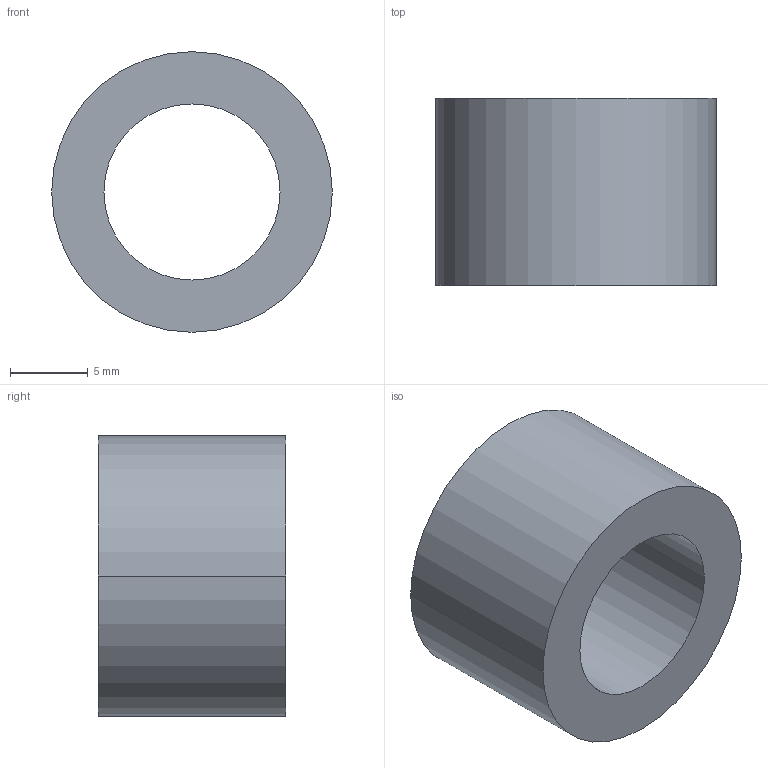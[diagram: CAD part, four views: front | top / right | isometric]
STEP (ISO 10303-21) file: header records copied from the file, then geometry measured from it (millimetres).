
FILE_DESCRIPTION (( 'STEP AP203' ), '1' );
FILE_NAME ('30800.WPP18E11.3.step', '2019-01-23T22:37:07', ( '' ), ( '' ), 'SwSTEP 2.0', 'SolidWorks 2017', '' );
FILE_SCHEMA (( 'CONFIG_CONTROL_DESIGN' ));
Length unit declared in the file: millimetre
Products named in the file (1): 30800.WPP18E11.3
Bounding box: 18 x 12 x 18 mm (x, y, z)
Volume: 1817.3 mm3; surface area: 1384.3 mm2
Topology: 1 solids, 1 shells, 8 faces, 16 edges, 10 vertices
Faces by surface type: cylinder 4, torus 2, plane 2
Entity records: 297 total; most frequent: DIRECTION 46, CARTESIAN_POINT 35, ORIENTED_EDGE 32, AXIS2_PLACEMENT_3D 21, EDGE_CURVE 16, CIRCLE 12, VERTEX_POINT 10, EDGE_LOOP 10
